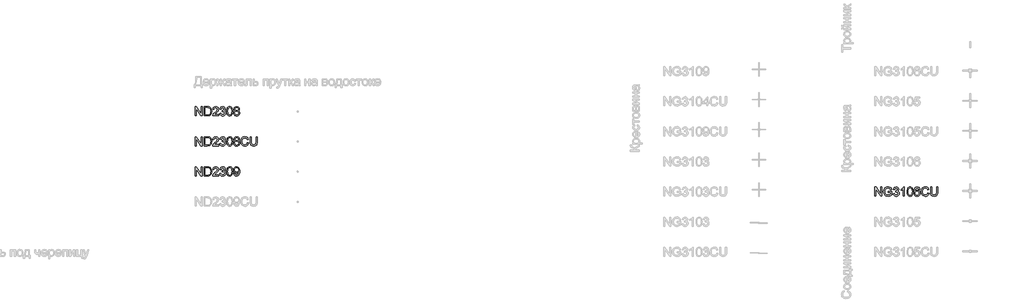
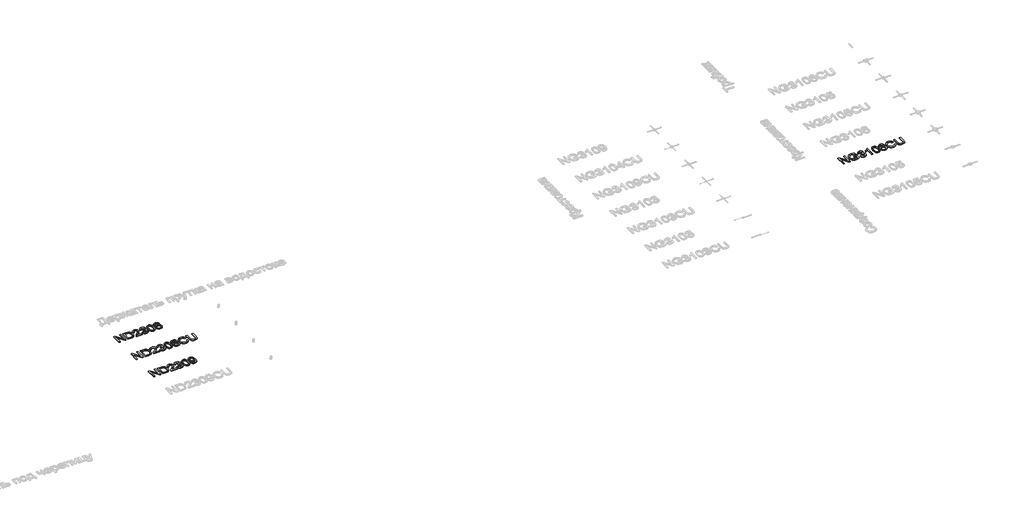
# One storey, part 114 of 124: 4 proxies.
"""IFC4 building model written with IfcOpenShell, lengths in millimetres."""

from ifc_helpers import new_model, si_unit, origin, origin_with_axes, place, context, project, spatial, polyline, outline, extrude, element, save

model = new_model("IFC4")

# Units and contexts
model_context = context("Model", 3, world=origin())
ifc_project = project(units=[si_unit("LENGTHUNIT", "METRE", prefix="MILLI")], contexts=[model_context])

# Site, building, storey
site = spatial("IfcSite", under=ifc_project)
building = spatial("IfcBuilding", under=site)
storey = spatial("IfcBuildingStorey", under=building, Name="Этаж 01", Elevation=0.0)

# Proxies
placement = place(None, origin())
element("IfcBuildingElementProxy", 1, Name="300", ObjectType="300", at=placement, inside=storey, context=model_context, shape_type="SweptSolid", body=[
    extrude(outline(polyline([(56699.8220677, -16519.5141033), (56699.8220677, -16218.1451728), (56740.1419344, -16218.1451728), (56897.5954283, -16456.9005877), (56897.5954283, -16218.1451728), (56935.2665446, -16218.1451728), (56935.2665446, -16519.5141033), (56894.9466779, -16519.5141033), (56737.493184, -16280.685112), (56737.493184, -16519.5141033), (56699.8220677, -16519.5141033)])), origin_with_axes(), (0.0, 0.0, 1.0), 20.0),
    extrude(outline(polyline([(57142.4576843, -16401.7918648), (57142.4576843, -16364.1207485), (57264.8888123, -16364.1207485), (57264.8888123, -16476.7662154), (57235.1363559, -16497.4595776), (57204.4458005, -16512.3036162), (57172.8907223, -16521.2431486), (57140.5446979, -16524.2229928), (57098.2842537, -16519.4865121), (57060.0889056, -16505.27707), (57028.3590835, -16482.0913073), (57005.4952175, -16450.4258646), (56991.6720515, -16412.4420486), (56987.0643295, -16370.301166), (56991.6536574, -16327.8567808), (57005.4216411, -16288.3738457), (57027.7980634, -16255.2552691), (57058.2127074, -16231.9039594), (57095.2584243, -16218.0532023), (57137.5280656, -16213.4362833), (57168.5589118, -16216.1126248), (57196.4627612, -16224.1416493), (57219.9612236, -16236.9439428), (57237.7759092, -16253.9400909), (57250.9552817, -16275.9486313), (57260.5478047, -16303.7881013), (57225.8197444, -16313.5737624), (57218.0666313, -16293.7173317), (57208.6396552, -16278.7353374), (57196.1684556, -16267.4413602), (57179.282672, -16258.6489805), (57159.1503298, -16252.9927948), (57136.9394544, -16251.1073996), (57110.9393944, -16253.1399476), (57088.7101248, -16259.2375917), (57070.3344191, -16268.6369766), (57055.8950508, -16280.5747474), (57036.5076697, -16309.6006368), (57027.6785018, -16338.037915), (57024.7354458, -16368.7560616), (57028.27631, -16404.780906), (57038.8989026, -16434.4229978), (57056.2813269, -16457.4708048), (57080.1016861, -16473.7127949), (57107.9779443, -16483.3421061), (57137.5280656, -16486.5518765), (57163.6200961, -16484.1330524), (57189.0683331, -16476.87658), (57211.1688439, -16466.8793868), (57227.217696, -16456.2384001), (57227.217696, -16401.7918648), (57142.4576843, -16401.7918648)])), origin_with_axes(), (0.0, 0.0, 1.0), 20.0),
    extrude(outline(polyline([(57311.9777077, -16439.4629811), (57349.648824, -16434.7540916), (57358.0825187, -16458.427298), (57370.4341567, -16474.4117707), (57387.3107432, -16483.51685), (57409.3192836, -16486.5518765), (57435.1445997, -16482.3764158), (57455.0838038, -16469.8500339), (57467.8309149, -16451.1616286), (57472.079952, -16428.5000977), (57467.8677031, -16406.988198), (57455.2309566, -16389.5413944), (57436.1010928, -16377.9807027), (57412.4094924, -16374.1271388), (57385.9955651, -16378.2474171), (57390.1894198, -16340.5763008), (57396.2226846, -16341.0177592), (57418.792245, -16338.3138265), (57438.9705724, -16330.2020285), (57453.2076056, -16316.4800301), (57457.9532834, -16296.9454962), (57454.5135867, -16280.6759149), (57444.1944967, -16267.4781484), (57428.4491473, -16258.7317539), (57408.7306724, -16255.8162891), (57388.9754093, -16258.7593451), (57372.8253897, -16267.588513), (57361.0347717, -16282.3037928), (57354.3577135, -16302.9051845), (57316.6865972, -16298.196295), (57327.7782394, -16264.3695455), (57347.5151084, -16239.1144465), (57374.5176468, -16223.3874912), (57407.4062972, -16218.1451728), (57431.0887007, -16220.7295438), (57452.8397236, -16228.4826569), (57471.1786411, -16240.7147332), (57484.624728, -16256.7359941), (57492.8744817, -16275.1944732), (57495.6243997, -16294.7382042), (57493.0124375, -16312.948363), (57485.176551, -16329.4662646), (57472.2271048, -16343.5377509), (57454.2744634, -16354.4086638), (57477.8556993, -16363.9368075), (57495.3300941, -16380.1604035), (57506.1458247, -16402.196535), (57509.7510683, -16429.1622852), (57507.9484465, -16448.2737549), (57502.5405812, -16465.8769084), (57493.5274723, -16481.9717457), (57480.9091199, -16496.5582668), (57465.536251, -16508.6615844), (57448.2595928, -16517.3068113), (57429.0791453, -16522.4939474), (57407.9949084, -16524.2229928), (57388.9386211, -16522.7468663), (57371.5745909, -16518.3184868), (57355.9028179, -16510.9378542), (57341.9233021, -16500.6049687), (57330.201662, -16487.9268354), (57321.3035162, -16473.5104598), (57315.2288648, -16457.3558417), (57311.9777077, -16439.4629811)])), origin_with_axes(), (0.0, 0.0, 1.0), 20.0),
    extrude(outline(polyline([(57683.9799812, -16519.5141033), (57646.3088649, -16519.5141033), (57646.3088649, -16284.6582375), (57610.6243114, -16310.0788834), (57570.9666323, -16329.0983826), (57570.9666323, -16293.4874054), (57600.5535417, -16277.3925681), (57626.1857197, -16258.2443103), (57646.3916383, -16237.8820419), (57659.6997695, -16218.1451728), (57683.9799812, -16218.1451728), (57683.9799812, -16519.5141033)])), origin_with_axes(), (0.0, 0.0, 1.0), 20.0),
    extrude(outline(polyline([(57773.4488824, -16371.2576592), (57776.2171944, -16323.0191326), (57784.5221305, -16284.5478729), (57798.2809171, -16255.2552691), (57817.4107808, -16234.5527098), (57842.0496775, -16222.2470571), (57872.3355627, -16218.1451728), (57895.5489166, -16220.573194), (57916.3342493, -16227.8572575), (57933.7166736, -16239.7122548), (57946.7213021, -16255.8530773), (57956.5437514, -16276.1417694), (57964.3796379, -16300.4403751), (57969.5115917, -16331.2964775), (57971.222243, -16371.2576592), (57968.4815222, -16419.2202743), (57960.2593596, -16457.5995635), (57946.5833464, -16486.9197585), (57927.4810738, -16507.7050912), (57902.7869949, -16520.0935174), (57872.3355627, -16524.2229928), (57851.5870182, -16522.4295681), (57833.1929184, -16517.0492939), (57817.1532634, -16508.0821703), (57803.4680532, -16495.5281972), (57790.334666, -16472.8344766), (57780.9536751, -16444.5581467), (57775.3250806, -16410.6992076), (57773.4488824, -16371.2576592)]), holes=[polyline([(57811.1199987, -16371.1840828), (57815.5345827, -16430.4406752), (57821.0528126, -16450.7086739), (57828.7783345, -16464.7364742), (57848.4968094, -16481.0980259), (57872.3355627, -16486.5518765), (57896.174316, -16481.0796318), (57915.892791, -16464.6628978), (57923.6183128, -16450.6121048), (57929.1365428, -16430.3487047), (57933.5511267, -16371.1840828), (57929.2836956, -16313.2610627), (57923.9494066, -16293.0597426), (57916.4814021, -16278.6985492), (57896.7997154, -16261.5368541), (57871.8941043, -16255.8162891), (57848.3128684, -16260.8562725), (57829.3669457, -16275.9762225), (57821.3839064, -16291.6112072), (57815.6817355, -16312.6908456), (57811.1199987, -16371.1840828)])]), origin_with_axes(), (0.0, 0.0, 1.0), 20.0),
    extrude(outline(polyline([(58197.2489409, -16298.196295), (58159.5778246, -16302.9051845), (58153.5077716, -16284.2351732), (58145.3040031, -16271.4880621), (58128.2158845, -16259.7342324), (58107.5593104, -16255.8162891), (58090.0481275, -16258.0971575), (58073.5670141, -16264.9397626), (58059.4127543, -16279.3515398), (58047.8520626, -16299.1895763), (58040.0437673, -16327.2497755), (58037.1466966, -16366.3280405), (58052.2574495, -16348.6972959), (58070.3664407, -16336.2720815), (58090.4619947, -16328.9052445), (58111.532436, -16326.4496322), (58129.6322301, -16328.1280938), (58146.3340727, -16333.1634786), (58161.6379637, -16341.5557866), (58175.5439031, -16353.3050178), (58187.0999963, -16367.7121965), (58195.3543486, -16384.0783467), (58200.3069599, -16402.4034686), (58201.9578304, -16422.6875621), (58198.8492275, -16449.6625094), (58189.523419, -16474.669288), (58174.7529569, -16495.8776851), (58155.3103934, -16511.4574876), (58132.0786454, -16521.0316165), (58105.9406297, -16524.2229928), (58083.4837331, -16522.1076713), (58063.2019389, -16515.7617069), (58045.0952469, -16505.1850995), (58029.1636573, -16490.3778492), (58016.1751236, -16470.7145566), (58006.8975995, -16445.5698222), (58001.3310851, -16414.9436461), (57999.4755803, -16378.8360283), (58001.5357194, -16338.3552133), (58007.7161369, -16303.8064954), (58018.0168328, -16275.1898747), (58032.437807, -16252.5053512), (58048.0681933, -16237.4727731), (58066.1909801, -16226.7352174), (58086.8061674, -16220.292684), (58109.9137552, -16218.1451728), (58142.9679525, -16223.4610676), (58169.437062, -16239.4087521), (58187.9783146, -16264.7374275), (58197.2489409, -16298.196295)]), holes=[polyline([(58037.1466966, -16422.0989509), (58039.3263974, -16438.7915965), (58045.8654998, -16454.7300839), (58056.0190429, -16468.4336882), (58069.0420655, -16478.4216844), (58084.7598238, -16484.5193285), (58102.9975737, -16486.5518765), (58127.8571995, -16482.3396276), (58147.4009305, -16469.7028811), (58160.0652682, -16449.8372534), (58164.2867141, -16423.9383609), (58160.1204505, -16399.0787351), (58147.6216597, -16380.1236153), (58127.7468349, -16368.1214652), (58101.4524693, -16364.1207485), (58076.6296317, -16368.1214652), (58055.8718901, -16380.1236153), (58041.8279949, -16398.6188826), (58037.1466966, -16422.0989509)])]), origin_with_axes(), (0.0, 0.0, 1.0), 20.0),
    extrude(outline(polyline([(58460.946755, -16412.3868663), (58498.6178713, -16422.0989509), (58491.1636624, -16445.5261362), (58481.235447, -16465.99647), (58468.8332253, -16483.5099522), (58453.9569971, -16498.0665829), (58436.9424548, -16509.5100123), (58418.1252908, -16517.6838903), (58397.5055049, -16522.5882172), (58375.0830973, -16524.2229928), (58331.3879134, -16519.27498), (58296.6874442, -16504.4309415), (58270.0895759, -16480.2059121), (58250.7021948, -16447.1149266), (58238.8655916, -16408.2114056), (58234.9200572, -16366.5487697), (58239.3806264, -16322.6052653), (58252.7623339, -16284.6582375), (58274.3662041, -16253.9124998), (58303.4932611, -16231.5728656), (58338.0373804, -16217.9704289), (58375.8924377, -16213.4362833), (58417.1963887, -16219.3040011), (58435.1651249, -16226.6386484), (58451.3450349, -16236.9071546), (58465.4694043, -16249.8382067), (58477.2715185, -16265.1604918), (58493.9089818, -16302.9787609), (58456.2378655, -16311.9550816), (58443.1780546, -16284.4834936), (58425.3357779, -16265.6387384), (58402.490306, -16254.7402343), (58374.4209097, -16251.1073996), (58342.0656883, -16255.1357074), (58315.4862141, -16267.220631), (58295.3170837, -16286.0929773), (58282.1928935, -16310.4835536), (58274.9916035, -16338.0563091), (58272.5911735, -16366.4751933), (58275.4330619, -16401.27683), (58283.9587271, -16431.3695772), (58298.4900659, -16455.6038036), (58319.3489751, -16472.8298781), (58344.3557537, -16483.1213769), (58371.330701, -16486.5518765), (58402.7754145, -16481.8797752), (58428.9778096, -16467.8634711), (58448.7606639, -16444.6501172), (58460.946755, -16412.3868663)])), origin_with_axes(), (0.0, 0.0, 1.0), 20.0),
    extrude(outline(polyline([(58748.1890168, -16218.1451728), (58785.8601331, -16218.1451728), (58785.8601331, -16392.0062037), (58783.3033533, -16432.7215435), (58775.6330137, -16464.0742866), (58761.30401, -16488.2625278), (58738.7712378, -16507.484362), (58707.9795148, -16520.0383351), (58668.8736587, -16524.2229928), (58630.6231282, -16520.580961), (58600.0429374, -16509.6548658), (58577.1238891, -16491.8217861), (58561.8567863, -16467.4588009), (58553.2759387, -16434.7816827), (58550.4156562, -16392.0062037), (58550.4156562, -16218.1451728), (58588.0867725, -16218.1451728), (58588.0867725, -16390.6818285), (58589.9445766, -16424.5361692), (58595.5179888, -16448.108208), (58605.6163496, -16464.4329715), (58621.0489993, -16476.5454862), (58641.1721444, -16484.0502789), (58665.3419915, -16486.5518765), (58703.6569013, -16481.6038637), (58717.9997006, -16475.4188476), (58729.1327295, -16466.7598252), (58737.4698552, -16454.5829311), (58743.424945, -16437.8443003), (58748.1890168, -16390.6818285), (58748.1890168, -16218.1451728)])), origin_with_axes(), (0.0, 0.0, 1.0), 20.0),
])
element("IfcBuildingElementProxy", 2, Name="300", ObjectType="300", at=placement, inside=storey, context=model_context, shape_type="SweptSolid", body=[
    extrude(outline(polyline([(34161.4897718, -13850.5404686), (34161.4897718, -13549.1715382), (34201.8096385, -13549.1715382), (34359.2631324, -13787.9269531), (34359.2631324, -13549.1715382), (34396.9342487, -13549.1715382), (34396.9342487, -13850.5404686), (34356.6143821, -13850.5404686), (34199.1608881, -13611.7114774), (34199.1608881, -13850.5404686), (34161.4897718, -13850.5404686)])), origin_with_axes(), (0.0, 0.0, 1.0), 20.0),
    extrude(outline(polyline([(34462.8587023, -13850.5404686), (34462.8587023, -13549.1715382), (34566.8221541, -13549.1715382), (34620.6065018, -13553.5125457), (34644.6291961, -13561.8818611), (34664.899494, -13575.0704306), (34685.7400091, -13598.0262671), (34700.5840476, -13626.57391), (34709.4683977, -13660.1615361), (34712.4298478, -13698.2373226), (34710.4248909, -13730.5833471), (34704.4100203, -13759.0482164), (34695.2497586, -13783.2824429), (34683.8086286, -13802.9365385), (34670.6384532, -13818.4519616), (34656.2910553, -13830.2701707), (34639.819139, -13839.0349592), (34620.275408, -13845.3901207), (34571.8253492, -13850.5404686), (34462.8587023, -13850.5404686)]), holes=[polyline([(34500.5298186, -13812.8693523), (34567.1900361, -13812.8693523), (34594.7627916, -13811.508189), (34615.6768831, -13807.4246988), (34631.4590207, -13800.8580052), (34643.6359147, -13792.0472314), (34656.7233167, -13775.740862), (34666.554963, -13754.6336325), (34672.7077894, -13728.6335725), (34674.7587315, -13697.6487114), (34670.7396207, -13656.5930808), (34658.6822883, -13626.2796044), (34640.8676027, -13605.4574835), (34619.5764322, -13592.8759192), (34597.9081827, -13588.3509707), (34566.1599665, -13586.8426545), (34500.5298186, -13586.8426545), (34500.5298186, -13812.8693523)])]), origin_with_axes(), (0.0, 0.0, 1.0), 20.0),
    extrude(outline(polyline([(34943.1654352, -13812.8693523), (34943.1654352, -13850.5404686), (34745.3920746, -13850.5404686), (34749.4387765, -13824.5679998), (34758.7277969, -13804.2701107), (34772.3210366, -13784.5792269), (34791.9843293, -13763.9686381), (34819.4835084, -13740.9116341), (34860.1344689, -13704.8040162), (34884.5250452, -13678.1509657), (34896.7203333, -13656.5195044), (34900.7854293, -13635.4766543), (34896.9502595, -13616.613505), (34885.4447501, -13600.9325349), (34867.7588232, -13590.3651246), (34845.3824009, -13586.8426545), (34821.8839384, -13590.2823512), (34803.6277944, -13600.6014411), (34791.8463735, -13616.990584), (34787.7720804, -13638.6404394), (34750.1009641, -13633.9315499), (34759.2336346, -13597.4928383), (34767.7799932, -13582.9569009), (34778.9797007, -13570.8765759), (34792.5752397, -13561.3806219), (34808.3090928, -13554.5977976), (34846.1917413, -13549.1715382), (34866.381565, -13550.6798544), (34884.3503012, -13555.2048029), (34900.0979499, -13562.7463838), (34913.624511, -13573.3045971), (34924.4885261, -13586.0976935), (34932.248537, -13600.3439237), (34936.9045435, -13616.0432879), (34938.4565456, -13633.1957859), (34936.7826826, -13651.2128066), (34931.7610933, -13668.9171276), (34922.849152, -13686.9249513), (34909.5042326, -13705.8524799), (34888.2314563, -13728.4496315), (34855.5359439, -13757.4663239), (34812.1994449, -13793.7027004), (34795.2032967, -13812.8693523), (34943.1654352, -13812.8693523)])), origin_with_axes(), (0.0, 0.0, 1.0), 20.0),
    extrude(outline(polyline([(34980.8365515, -13770.4893465), (35018.5076678, -13765.7804569), (35026.9413625, -13789.4536633), (35039.2930005, -13805.438136), (35056.169587, -13814.5432154), (35078.1781274, -13817.5782419), (35104.0034435, -13813.4027812), (35123.9426476, -13800.8763993), (35136.6897587, -13782.1879939), (35140.9387958, -13759.526463), (35136.7265469, -13738.0145634), (35124.0898004, -13720.5677597), (35104.9599367, -13709.007068), (35081.2683362, -13705.1535041), (35054.8544089, -13709.2737825), (35059.0482637, -13671.6026662), (35065.0815284, -13672.0441246), (35087.6510888, -13669.3401919), (35107.8294162, -13661.2283939), (35122.0664494, -13647.5063955), (35126.8121272, -13627.9718616), (35123.3724305, -13611.7022803), (35113.0533406, -13598.5045137), (35097.3079912, -13589.7581193), (35077.5895162, -13586.8426545), (35057.8342531, -13589.7857105), (35041.6842335, -13598.6148783), (35029.8936155, -13613.3301581), (35023.2165573, -13633.9315499), (34985.545441, -13629.2226603), (34996.6370832, -13595.3959109), (35016.3739522, -13570.1408119), (35043.3764907, -13554.4138566), (35076.265141, -13549.1715382), (35099.9475445, -13551.7559092), (35121.6985674, -13559.5090223), (35140.0374849, -13571.7410986), (35153.4835718, -13587.7623595), (35161.7333256, -13606.2208386), (35164.4832435, -13625.7645696), (35161.8712813, -13643.9747283), (35154.0353948, -13660.4926299), (35141.0859486, -13674.5641162), (35123.1333072, -13685.4350292), (35146.7145431, -13694.9631729), (35164.1889379, -13711.1867689), (35175.0046685, -13733.2229004), (35178.6099121, -13760.1886506), (35176.8072903, -13779.3001203), (35171.399425, -13796.9032737), (35162.3863161, -13812.998111), (35149.7679637, -13827.5846321), (35134.3950948, -13839.6879498), (35117.1184366, -13848.3331767), (35097.9379891, -13853.5203128), (35076.8537522, -13855.2493582), (35057.7974649, -13853.7732317), (35040.4334347, -13849.3448522), (35024.7616617, -13841.9642196), (35010.7821459, -13831.6313341), (34999.0605058, -13818.9532008), (34990.1623601, -13804.5368251), (34984.0877086, -13788.382207), (34980.8365515, -13770.4893465)])), origin_with_axes(), (0.0, 0.0, 1.0), 20.0),
    extrude(outline(polyline([(35211.5721389, -13702.2840246), (35214.3404509, -13654.045498), (35222.6453869, -13615.5742383), (35236.4041735, -13586.2816345), (35255.5340373, -13565.5790752), (35280.1729339, -13553.2734224), (35310.4588192, -13549.1715382), (35333.6721731, -13551.5995594), (35354.4575058, -13558.8836229), (35371.8399301, -13570.7386202), (35384.8445586, -13586.8794427), (35394.6670079, -13607.1681347), (35402.5028944, -13631.4667405), (35407.6348482, -13662.3228429), (35409.3454995, -13702.2840246), (35406.6047786, -13750.2466397), (35398.382616, -13788.6259289), (35384.7066028, -13817.9461239), (35365.6043302, -13838.7314566), (35340.9102513, -13851.1198828), (35310.4588192, -13855.2493582), (35289.7102746, -13853.4559335), (35271.3161749, -13848.0756593), (35255.2765199, -13839.1085356), (35241.5913097, -13826.5545626), (35228.4579224, -13803.860842), (35219.0769316, -13775.5845121), (35213.448337, -13741.725573), (35211.5721389, -13702.2840246)]), holes=[polyline([(35249.2432552, -13702.2104482), (35253.6578391, -13761.4670406), (35259.176069, -13781.7350392), (35266.9015909, -13795.7628396), (35286.6200659, -13812.1243913), (35310.4588192, -13817.5782419), (35334.2975725, -13812.1059972), (35354.0160474, -13795.6892632), (35361.7415693, -13781.6384702), (35367.2597992, -13761.3750701), (35371.6743832, -13702.2104482), (35367.406952, -13644.287428), (35362.0726631, -13624.086108), (35354.6046586, -13609.7249146), (35334.9229718, -13592.5632195), (35310.0173608, -13586.8426545), (35286.4361249, -13591.8826378), (35267.4902021, -13607.0025878), (35259.5071628, -13622.6375726), (35253.8049919, -13643.7172109), (35249.2432552, -13702.2104482)])]), origin_with_axes(), (0.0, 0.0, 1.0), 20.0),
    extrude(outline(polyline([(35497.1957199, -13684.5521124), (35477.0265895, -13674.6192985), (35462.8723298, -13661.1548175), (35454.5122114, -13644.4345808), (35451.7255053, -13624.7345), (35453.2430185, -13609.3708282), (35457.7955582, -13595.2855463), (35465.3831244, -13582.4786543), (35476.005717, -13570.9501523), (35489.1528998, -13561.4220086), (35504.3142365, -13554.6161917), (35540.6793717, -13549.1715382), (35577.2652362, -13554.7449504), (35592.5921198, -13561.7117157), (35605.9416377, -13571.4651871), (35616.7573684, -13583.2190168), (35624.4828902, -13596.1868572), (35629.1182034, -13610.3687081), (35630.6633078, -13625.7645696), (35627.9133899, -13644.830054), (35619.6636361, -13661.2651821), (35605.822076, -13674.6468897), (35586.2967391, -13684.5521124), (35609.4825019, -13696.4990802), (35626.3590884, -13714.0930366), (35636.6505872, -13736.4878531), (35640.0810868, -13762.837401), (35638.3796326, -13781.6269739), (35633.2752699, -13798.8530483), (35624.7679988, -13814.5156243), (35612.8578192, -13828.6147017), (35598.1701305, -13840.2673639), (35581.3303322, -13848.5906941), (35562.3384242, -13853.5846921), (35541.1944065, -13855.2493582), (35520.0503889, -13853.5777944), (35501.0584809, -13848.5631029), (35484.2186825, -13840.2052838), (35469.5309939, -13828.5043371), (35457.6208143, -13814.3063914), (35449.1135431, -13798.4575752), (35444.0091805, -13780.9578885), (35442.3077262, -13761.8073314), (35445.8761816, -13734.436911), (35456.5815477, -13711.9225329), (35473.8720014, -13695.0367493), (35497.1957199, -13684.5521124)]), holes=[polyline([(35479.9788425, -13760.4829562), (35486.2696247, -13788.846658), (35494.9792309, -13801.014355), (35508.5264854, -13810.0734492), (35524.7500814, -13815.7020437), (35541.4887121, -13817.5782419), (35567.1300872, -13813.6327075), (35586.3703155, -13801.7961043), (35598.4000568, -13783.8710541), (35602.4099705, -13761.6601786), (35598.2712981, -13739.0722241), (35585.8552808, -13720.7517007), (35566.173594, -13708.6115949), (35540.2379134, -13704.564893), (35514.9552232, -13708.5564126), (35495.9081329, -13720.5309715), (35483.9611651, -13738.502007), (35479.9788425, -13760.4829562)]), polyline([(35489.3966216, -13625.838146), (35492.7351507, -13642.2824712), (35502.750738, -13655.4158584), (35519.149078, -13664.0242971), (35541.6358649, -13666.8937766), (35563.59842, -13664.0426912), (35579.7484396, -13655.4894348), (35589.6812535, -13642.797506), (35592.9921915, -13627.5304032), (35589.5708889, -13611.6838862), (35579.3069812, -13598.5780901), (35562.9362325, -13589.7765134), (35541.1944065, -13586.8426545), (35519.3146249, -13589.7121341), (35502.9714672, -13598.3205727), (35492.790333, -13610.9389252), (35489.3966216, -13625.838146)])]), origin_with_axes(), (0.0, 0.0, 1.0), 20.0),
])
element("IfcBuildingElementProxy", 3, Name="300", ObjectType="300", at=placement, inside=storey, context=model_context, shape_type="SweptSolid", body=[
    extrude(outline(polyline([(34161.4897718, -14850.5404686), (34161.4897718, -14549.1715382), (34201.8096385, -14549.1715382), (34359.2631324, -14787.9269531), (34359.2631324, -14549.1715382), (34396.9342487, -14549.1715382), (34396.9342487, -14850.5404686), (34356.6143821, -14850.5404686), (34199.1608881, -14611.7114774), (34199.1608881, -14850.5404686), (34161.4897718, -14850.5404686)])), origin_with_axes(), (0.0, 0.0, 1.0), 20.0),
    extrude(outline(polyline([(34462.8587023, -14850.5404686), (34462.8587023, -14549.1715382), (34566.8221541, -14549.1715382), (34620.6065018, -14553.5125457), (34644.6291961, -14561.8818611), (34664.899494, -14575.0704306), (34685.7400091, -14598.0262671), (34700.5840476, -14626.57391), (34709.4683977, -14660.1615361), (34712.4298478, -14698.2373226), (34710.4248909, -14730.5833471), (34704.4100203, -14759.0482164), (34695.2497586, -14783.2824429), (34683.8086286, -14802.9365385), (34670.6384532, -14818.4519616), (34656.2910553, -14830.2701707), (34639.819139, -14839.0349592), (34620.275408, -14845.3901207), (34571.8253492, -14850.5404686), (34462.8587023, -14850.5404686)]), holes=[polyline([(34500.5298186, -14812.8693523), (34567.1900361, -14812.8693523), (34594.7627916, -14811.508189), (34615.6768831, -14807.4246988), (34631.4590207, -14800.8580052), (34643.6359147, -14792.0472314), (34656.7233167, -14775.740862), (34666.554963, -14754.6336325), (34672.7077894, -14728.6335725), (34674.7587315, -14697.6487114), (34670.7396207, -14656.5930808), (34658.6822883, -14626.2796044), (34640.8676027, -14605.4574835), (34619.5764322, -14592.8759192), (34597.9081827, -14588.3509707), (34566.1599665, -14586.8426545), (34500.5298186, -14586.8426545), (34500.5298186, -14812.8693523)])]), origin_with_axes(), (0.0, 0.0, 1.0), 20.0),
    extrude(outline(polyline([(34943.1654352, -14812.8693523), (34943.1654352, -14850.5404686), (34745.3920746, -14850.5404686), (34749.4387765, -14824.5679998), (34758.7277969, -14804.2701107), (34772.3210366, -14784.5792269), (34791.9843293, -14763.9686381), (34819.4835084, -14740.9116341), (34860.1344689, -14704.8040162), (34884.5250452, -14678.1509657), (34896.7203333, -14656.5195044), (34900.7854293, -14635.4766543), (34896.9502595, -14616.613505), (34885.4447501, -14600.9325349), (34867.7588232, -14590.3651246), (34845.3824009, -14586.8426545), (34821.8839384, -14590.2823512), (34803.6277944, -14600.6014411), (34791.8463735, -14616.990584), (34787.7720804, -14638.6404394), (34750.1009641, -14633.9315499), (34759.2336346, -14597.4928383), (34767.7799932, -14582.9569009), (34778.9797007, -14570.8765759), (34792.5752397, -14561.3806219), (34808.3090928, -14554.5977976), (34846.1917413, -14549.1715382), (34866.381565, -14550.6798544), (34884.3503012, -14555.2048029), (34900.0979499, -14562.7463838), (34913.624511, -14573.3045971), (34924.4885261, -14586.0976935), (34932.248537, -14600.3439237), (34936.9045435, -14616.0432879), (34938.4565456, -14633.1957859), (34936.7826826, -14651.2128066), (34931.7610933, -14668.9171276), (34922.849152, -14686.9249513), (34909.5042326, -14705.8524799), (34888.2314563, -14728.4496315), (34855.5359439, -14757.4663239), (34812.1994449, -14793.7027004), (34795.2032967, -14812.8693523), (34943.1654352, -14812.8693523)])), origin_with_axes(), (0.0, 0.0, 1.0), 20.0),
    extrude(outline(polyline([(34980.8365515, -14770.4893465), (35018.5076678, -14765.7804569), (35026.9413625, -14789.4536633), (35039.2930005, -14805.438136), (35056.169587, -14814.5432154), (35078.1781274, -14817.5782419), (35104.0034435, -14813.4027812), (35123.9426476, -14800.8763993), (35136.6897587, -14782.1879939), (35140.9387958, -14759.526463), (35136.7265469, -14738.0145634), (35124.0898004, -14720.5677597), (35104.9599367, -14709.007068), (35081.2683362, -14705.1535041), (35054.8544089, -14709.2737825), (35059.0482637, -14671.6026662), (35065.0815284, -14672.0441246), (35087.6510888, -14669.3401919), (35107.8294162, -14661.2283939), (35122.0664494, -14647.5063955), (35126.8121272, -14627.9718616), (35123.3724305, -14611.7022803), (35113.0533406, -14598.5045137), (35097.3079912, -14589.7581193), (35077.5895162, -14586.8426545), (35057.8342531, -14589.7857105), (35041.6842335, -14598.6148783), (35029.8936155, -14613.3301581), (35023.2165573, -14633.9315499), (34985.545441, -14629.2226603), (34996.6370832, -14595.3959109), (35016.3739522, -14570.1408119), (35043.3764907, -14554.4138566), (35076.265141, -14549.1715382), (35099.9475445, -14551.7559092), (35121.6985674, -14559.5090223), (35140.0374849, -14571.7410986), (35153.4835718, -14587.7623595), (35161.7333256, -14606.2208386), (35164.4832435, -14625.7645696), (35161.8712813, -14643.9747283), (35154.0353948, -14660.4926299), (35141.0859486, -14674.5641162), (35123.1333072, -14685.4350292), (35146.7145431, -14694.9631729), (35164.1889379, -14711.1867689), (35175.0046685, -14733.2229004), (35178.6099121, -14760.1886506), (35176.8072903, -14779.3001203), (35171.399425, -14796.9032737), (35162.3863161, -14812.998111), (35149.7679637, -14827.5846321), (35134.3950948, -14839.6879498), (35117.1184366, -14848.3331767), (35097.9379891, -14853.5203128), (35076.8537522, -14855.2493582), (35057.7974649, -14853.7732317), (35040.4334347, -14849.3448522), (35024.7616617, -14841.9642196), (35010.7821459, -14831.6313341), (34999.0605058, -14818.9532008), (34990.1623601, -14804.5368251), (34984.0877086, -14788.382207), (34980.8365515, -14770.4893465)])), origin_with_axes(), (0.0, 0.0, 1.0), 20.0),
    extrude(outline(polyline([(35211.5721389, -14702.2840246), (35214.3404509, -14654.045498), (35222.6453869, -14615.5742383), (35236.4041735, -14586.2816345), (35255.5340373, -14565.5790752), (35280.1729339, -14553.2734224), (35310.4588192, -14549.1715382), (35333.6721731, -14551.5995594), (35354.4575058, -14558.8836229), (35371.8399301, -14570.7386202), (35384.8445586, -14586.8794427), (35394.6670079, -14607.1681347), (35402.5028944, -14631.4667405), (35407.6348482, -14662.3228429), (35409.3454995, -14702.2840246), (35406.6047786, -14750.2466397), (35398.382616, -14788.6259289), (35384.7066028, -14817.9461239), (35365.6043302, -14838.7314566), (35340.9102513, -14851.1198828), (35310.4588192, -14855.2493582), (35289.7102746, -14853.4559335), (35271.3161749, -14848.0756593), (35255.2765199, -14839.1085356), (35241.5913097, -14826.5545626), (35228.4579224, -14803.860842), (35219.0769316, -14775.5845121), (35213.448337, -14741.725573), (35211.5721389, -14702.2840246)]), holes=[polyline([(35249.2432552, -14702.2104482), (35253.6578391, -14761.4670406), (35259.176069, -14781.7350392), (35266.9015909, -14795.7628396), (35286.6200659, -14812.1243913), (35310.4588192, -14817.5782419), (35334.2975725, -14812.1059972), (35354.0160474, -14795.6892632), (35361.7415693, -14781.6384702), (35367.2597992, -14761.3750701), (35371.6743832, -14702.2104482), (35367.406952, -14644.287428), (35362.0726631, -14624.086108), (35354.6046586, -14609.7249146), (35334.9229718, -14592.5632195), (35310.0173608, -14586.8426545), (35286.4361249, -14591.8826378), (35267.4902021, -14607.0025878), (35259.5071628, -14622.6375726), (35253.8049919, -14643.7172109), (35249.2432552, -14702.2104482)])]), origin_with_axes(), (0.0, 0.0, 1.0), 20.0),
    extrude(outline(polyline([(35497.1957199, -14684.5521124), (35477.0265895, -14674.6192985), (35462.8723298, -14661.1548175), (35454.5122114, -14644.4345808), (35451.7255053, -14624.7345), (35453.2430185, -14609.3708282), (35457.7955582, -14595.2855463), (35465.3831244, -14582.4786543), (35476.005717, -14570.9501523), (35489.1528998, -14561.4220086), (35504.3142365, -14554.6161917), (35540.6793717, -14549.1715382), (35577.2652362, -14554.7449504), (35592.5921198, -14561.7117157), (35605.9416377, -14571.4651871), (35616.7573684, -14583.2190168), (35624.4828902, -14596.1868572), (35629.1182034, -14610.3687081), (35630.6633078, -14625.7645696), (35627.9133899, -14644.830054), (35619.6636361, -14661.2651821), (35605.822076, -14674.6468897), (35586.2967391, -14684.5521124), (35609.4825019, -14696.4990802), (35626.3590884, -14714.0930366), (35636.6505872, -14736.4878531), (35640.0810868, -14762.837401), (35638.3796326, -14781.6269739), (35633.2752699, -14798.8530483), (35624.7679988, -14814.5156243), (35612.8578192, -14828.6147017), (35598.1701305, -14840.2673639), (35581.3303322, -14848.5906941), (35562.3384242, -14853.5846921), (35541.1944065, -14855.2493582), (35520.0503889, -14853.5777944), (35501.0584809, -14848.5631029), (35484.2186825, -14840.2052838), (35469.5309939, -14828.5043371), (35457.6208143, -14814.3063914), (35449.1135431, -14798.4575752), (35444.0091805, -14780.9578885), (35442.3077262, -14761.8073314), (35445.8761816, -14734.436911), (35456.5815477, -14711.9225329), (35473.8720014, -14695.0367493), (35497.1957199, -14684.5521124)]), holes=[polyline([(35479.9788425, -14760.4829562), (35486.2696247, -14788.846658), (35494.9792309, -14801.014355), (35508.5264854, -14810.0734492), (35524.7500814, -14815.7020437), (35541.4887121, -14817.5782419), (35567.1300872, -14813.6327075), (35586.3703155, -14801.7961043), (35598.4000568, -14783.8710541), (35602.4099705, -14761.6601786), (35598.2712981, -14739.0722241), (35585.8552808, -14720.7517007), (35566.173594, -14708.6115949), (35540.2379134, -14704.564893), (35514.9552232, -14708.5564126), (35495.9081329, -14720.5309715), (35483.9611651, -14738.502007), (35479.9788425, -14760.4829562)]), polyline([(35489.3966216, -14625.838146), (35492.7351507, -14642.2824712), (35502.750738, -14655.4158584), (35519.149078, -14664.0242971), (35541.6358649, -14666.8937766), (35563.59842, -14664.0426912), (35579.7484396, -14655.4894348), (35589.6812535, -14642.797506), (35592.9921915, -14627.5304032), (35589.5708889, -14611.6838862), (35579.3069812, -14598.5780901), (35562.9362325, -14589.7765134), (35541.1944065, -14586.8426545), (35519.3146249, -14589.7121341), (35502.9714672, -14598.3205727), (35492.790333, -14610.9389252), (35489.3966216, -14625.838146)])]), origin_with_axes(), (0.0, 0.0, 1.0), 20.0),
    extrude(outline(polyline([(35899.0700114, -14743.4132316), (35936.7411278, -14753.1253163), (35929.2869188, -14776.5525016), (35919.3587035, -14797.0228354), (35906.9564817, -14814.5363176), (35892.0802535, -14829.0929483), (35875.0657113, -14840.5363776), (35856.2485472, -14848.7102557), (35835.6287614, -14853.6145826), (35813.2063538, -14855.2493582), (35769.5111698, -14850.3013453), (35734.8107006, -14835.4573068), (35708.2128324, -14811.2322775), (35688.8254512, -14778.141292), (35676.988848, -14739.237771), (35673.0433136, -14697.575135), (35677.5038828, -14653.6316307), (35690.8855904, -14615.6846029), (35712.4894605, -14584.9388652), (35741.6165175, -14562.599231), (35776.1606369, -14548.9967942), (35814.0156942, -14544.4626487), (35855.3196452, -14550.3303665), (35873.2883814, -14557.6650138), (35889.4682914, -14567.9335199), (35903.5926607, -14580.8645721), (35915.394775, -14596.1868572), (35932.0322382, -14634.0051263), (35894.3611219, -14642.981447), (35881.3013111, -14615.509859), (35863.4590343, -14596.6651038), (35840.6135624, -14585.7665997), (35812.5441662, -14582.133765), (35780.1889447, -14586.1620728), (35753.6094706, -14598.2469963), (35733.4403402, -14617.1193427), (35720.31615, -14641.509919), (35713.1148599, -14669.0826745), (35710.7144299, -14697.5015586), (35713.5563183, -14732.3031954), (35722.0819836, -14762.3959426), (35736.6133224, -14786.630169), (35757.4722315, -14803.8562435), (35782.4790101, -14814.1477423), (35809.4539574, -14817.5782419), (35840.898671, -14812.9061405), (35867.1010661, -14798.8898365), (35886.8839204, -14775.6764826), (35899.0700114, -14743.4132316)])), origin_with_axes(), (0.0, 0.0, 1.0), 20.0),
    extrude(outline(polyline([(36186.3122733, -14549.1715382), (36223.9833896, -14549.1715382), (36223.9833896, -14723.0325691), (36221.4266097, -14763.7479089), (36213.7562701, -14795.100652), (36199.4272664, -14819.2888931), (36176.8944942, -14838.5107274), (36146.1027712, -14851.0647005), (36106.9969151, -14855.2493582), (36068.7463847, -14851.6073264), (36038.1661938, -14840.6812312), (36015.2471455, -14822.8481515), (35999.9800427, -14798.4851663), (35991.3991952, -14765.8080481), (35988.5389127, -14723.0325691), (35988.5389127, -14549.1715382), (36026.210029, -14549.1715382), (36026.210029, -14721.7081939), (36028.0678331, -14755.5625345), (36033.6412453, -14779.1345734), (36043.7396061, -14795.4593369), (36059.1722557, -14807.5718516), (36079.2954009, -14815.0766443), (36103.465248, -14817.5782419), (36141.7801578, -14812.630229), (36156.1229571, -14806.445213), (36167.2559859, -14797.7861905), (36175.5931116, -14785.6092965), (36181.5482014, -14768.8706657), (36186.3122733, -14721.7081939), (36186.3122733, -14549.1715382)])), origin_with_axes(), (0.0, 0.0, 1.0), 20.0),
])
element("IfcBuildingElementProxy", 4, Name="300", ObjectType="300", at=placement, inside=storey, context=model_context, shape_type="SweptSolid", body=[
    extrude(outline(polyline([(34161.4897718, -15850.5404686), (34161.4897718, -15549.1715382), (34201.8096385, -15549.1715382), (34359.2631324, -15787.9269531), (34359.2631324, -15549.1715382), (34396.9342487, -15549.1715382), (34396.9342487, -15850.5404686), (34356.6143821, -15850.5404686), (34199.1608881, -15611.7114774), (34199.1608881, -15850.5404686), (34161.4897718, -15850.5404686)])), origin_with_axes(), (0.0, 0.0, 1.0), 20.0),
    extrude(outline(polyline([(34462.8587023, -15850.5404686), (34462.8587023, -15549.1715382), (34566.8221541, -15549.1715382), (34620.6065018, -15553.5125457), (34644.6291961, -15561.8818611), (34664.899494, -15575.0704306), (34685.7400091, -15598.0262671), (34700.5840476, -15626.57391), (34709.4683977, -15660.1615361), (34712.4298478, -15698.2373226), (34710.4248909, -15730.5833471), (34704.4100203, -15759.0482164), (34695.2497586, -15783.2824429), (34683.8086286, -15802.9365385), (34670.6384532, -15818.4519616), (34656.2910553, -15830.2701707), (34639.819139, -15839.0349592), (34620.275408, -15845.3901207), (34571.8253492, -15850.5404686), (34462.8587023, -15850.5404686)]), holes=[polyline([(34500.5298186, -15812.8693523), (34567.1900361, -15812.8693523), (34594.7627916, -15811.508189), (34615.6768831, -15807.4246988), (34631.4590207, -15800.8580052), (34643.6359147, -15792.0472314), (34656.7233167, -15775.740862), (34666.554963, -15754.6336325), (34672.7077894, -15728.6335725), (34674.7587315, -15697.6487114), (34670.7396207, -15656.5930808), (34658.6822883, -15626.2796044), (34640.8676027, -15605.4574835), (34619.5764322, -15592.8759192), (34597.9081827, -15588.3509707), (34566.1599665, -15586.8426545), (34500.5298186, -15586.8426545), (34500.5298186, -15812.8693523)])]), origin_with_axes(), (0.0, 0.0, 1.0), 20.0),
    extrude(outline(polyline([(34943.1654352, -15812.8693523), (34943.1654352, -15850.5404686), (34745.3920746, -15850.5404686), (34749.4387765, -15824.5679998), (34758.7277969, -15804.2701107), (34772.3210366, -15784.5792269), (34791.9843293, -15763.9686381), (34819.4835084, -15740.9116341), (34860.1344689, -15704.8040162), (34884.5250452, -15678.1509657), (34896.7203333, -15656.5195044), (34900.7854293, -15635.4766543), (34896.9502595, -15616.613505), (34885.4447501, -15600.9325349), (34867.7588232, -15590.3651246), (34845.3824009, -15586.8426545), (34821.8839384, -15590.2823512), (34803.6277944, -15600.6014411), (34791.8463735, -15616.990584), (34787.7720804, -15638.6404394), (34750.1009641, -15633.9315499), (34759.2336346, -15597.4928383), (34767.7799932, -15582.9569009), (34778.9797007, -15570.8765759), (34792.5752397, -15561.3806219), (34808.3090928, -15554.5977976), (34846.1917413, -15549.1715382), (34866.381565, -15550.6798544), (34884.3503012, -15555.2048029), (34900.0979499, -15562.7463838), (34913.624511, -15573.3045971), (34924.4885261, -15586.0976935), (34932.248537, -15600.3439237), (34936.9045435, -15616.0432879), (34938.4565456, -15633.1957859), (34936.7826826, -15651.2128066), (34931.7610933, -15668.9171276), (34922.849152, -15686.9249513), (34909.5042326, -15705.8524799), (34888.2314563, -15728.4496315), (34855.5359439, -15757.4663239), (34812.1994449, -15793.7027004), (34795.2032967, -15812.8693523), (34943.1654352, -15812.8693523)])), origin_with_axes(), (0.0, 0.0, 1.0), 20.0),
    extrude(outline(polyline([(34980.8365515, -15770.4893465), (35018.5076678, -15765.7804569), (35026.9413625, -15789.4536633), (35039.2930005, -15805.438136), (35056.169587, -15814.5432154), (35078.1781274, -15817.5782419), (35104.0034435, -15813.4027812), (35123.9426476, -15800.8763993), (35136.6897587, -15782.1879939), (35140.9387958, -15759.526463), (35136.7265469, -15738.0145634), (35124.0898004, -15720.5677597), (35104.9599367, -15709.007068), (35081.2683362, -15705.1535041), (35054.8544089, -15709.2737825), (35059.0482637, -15671.6026662), (35065.0815284, -15672.0441246), (35087.6510888, -15669.3401919), (35107.8294162, -15661.2283939), (35122.0664494, -15647.5063955), (35126.8121272, -15627.9718616), (35123.3724305, -15611.7022803), (35113.0533406, -15598.5045137), (35097.3079912, -15589.7581193), (35077.5895162, -15586.8426545), (35057.8342531, -15589.7857105), (35041.6842335, -15598.6148783), (35029.8936155, -15613.3301581), (35023.2165573, -15633.9315499), (34985.545441, -15629.2226603), (34996.6370832, -15595.3959109), (35016.3739522, -15570.1408119), (35043.3764907, -15554.4138566), (35076.265141, -15549.1715382), (35099.9475445, -15551.7559092), (35121.6985674, -15559.5090223), (35140.0374849, -15571.7410986), (35153.4835718, -15587.7623595), (35161.7333256, -15606.2208386), (35164.4832435, -15625.7645696), (35161.8712813, -15643.9747283), (35154.0353948, -15660.4926299), (35141.0859486, -15674.5641162), (35123.1333072, -15685.4350292), (35146.7145431, -15694.9631729), (35164.1889379, -15711.1867689), (35175.0046685, -15733.2229004), (35178.6099121, -15760.1886506), (35176.8072903, -15779.3001203), (35171.399425, -15796.9032737), (35162.3863161, -15812.998111), (35149.7679637, -15827.5846321), (35134.3950948, -15839.6879498), (35117.1184366, -15848.3331767), (35097.9379891, -15853.5203128), (35076.8537522, -15855.2493582), (35057.7974649, -15853.7732317), (35040.4334347, -15849.3448522), (35024.7616617, -15841.9642196), (35010.7821459, -15831.6313341), (34999.0605058, -15818.9532008), (34990.1623601, -15804.5368251), (34984.0877086, -15788.382207), (34980.8365515, -15770.4893465)])), origin_with_axes(), (0.0, 0.0, 1.0), 20.0),
    extrude(outline(polyline([(35211.5721389, -15702.2840246), (35214.3404509, -15654.045498), (35222.6453869, -15615.5742383), (35236.4041735, -15586.2816345), (35255.5340373, -15565.5790752), (35280.1729339, -15553.2734224), (35310.4588192, -15549.1715382), (35333.6721731, -15551.5995594), (35354.4575058, -15558.8836229), (35371.8399301, -15570.7386202), (35384.8445586, -15586.8794427), (35394.6670079, -15607.1681347), (35402.5028944, -15631.4667405), (35407.6348482, -15662.3228429), (35409.3454995, -15702.2840246), (35406.6047786, -15750.2466397), (35398.382616, -15788.6259289), (35384.7066028, -15817.9461239), (35365.6043302, -15838.7314566), (35340.9102513, -15851.1198828), (35310.4588192, -15855.2493582), (35289.7102746, -15853.4559335), (35271.3161749, -15848.0756593), (35255.2765199, -15839.1085356), (35241.5913097, -15826.5545626), (35228.4579224, -15803.860842), (35219.0769316, -15775.5845121), (35213.448337, -15741.725573), (35211.5721389, -15702.2840246)]), holes=[polyline([(35249.2432552, -15702.2104482), (35253.6578391, -15761.4670406), (35259.176069, -15781.7350392), (35266.9015909, -15795.7628396), (35286.6200659, -15812.1243913), (35310.4588192, -15817.5782419), (35334.2975725, -15812.1059972), (35354.0160474, -15795.6892632), (35361.7415693, -15781.6384702), (35367.2597992, -15761.3750701), (35371.6743832, -15702.2104482), (35367.406952, -15644.287428), (35362.0726631, -15624.086108), (35354.6046586, -15609.7249146), (35334.9229718, -15592.5632195), (35310.0173608, -15586.8426545), (35286.4361249, -15591.8826378), (35267.4902021, -15607.0025878), (35259.5071628, -15622.6375726), (35253.8049919, -15643.7172109), (35249.2432552, -15702.2104482)])]), origin_with_axes(), (0.0, 0.0, 1.0), 20.0),
    extrude(outline(polyline([(35447.0166158, -15775.198236), (35484.6877321, -15770.4893465), (35491.125667, -15791.8724875), (35501.6103039, -15806.4314174), (35515.8841253, -15814.7915358), (35533.6896138, -15817.5782419), (35549.6648895, -15815.7848171), (35564.1870312, -15810.404543), (35576.2535607, -15802.0260305), (35584.8619994, -15791.237891), (35597.1860462, -15758.4963934), (35602.6306997, -15714.7920124), (35602.4099705, -15707.4343725), (35589.3593568, -15723.3636629), (35572.2804351, -15735.9820153), (35552.4056103, -15744.2041779), (35530.9672871, -15746.9448988), (35513.0721273, -15745.2710357), (35496.6163058, -15740.2494465), (35481.5998226, -15731.8801311), (35468.0226777, -15720.1630895), (35456.7723864, -15705.7099257), (35448.7364641, -15689.1322433), (35443.9149107, -15670.4300423), (35442.3077262, -15649.6033229), (35443.9930856, -15628.0822262), (35449.0491638, -15608.7684214), (35457.4759608, -15591.6619086), (35469.2734765, -15576.7626878), (35483.609378, -15564.6915599), (35499.6513322, -15556.0693256), (35517.3993392, -15550.895985), (35536.853399, -15549.1715382), (35564.9503864, -15553.1078755), (35590.5273821, -15564.9168876), (35611.9197201, -15584.0099631), (35627.4627344, -15609.798491), (35636.9264987, -15645.4462563), (35640.0810868, -15694.1170443), (35636.9356958, -15745.7216912), (35627.4995226, -15785.6092965), (35611.8553408, -15815.582482), (35590.0859237, -15837.4438696), (35563.1293705, -15850.797986), (35531.9237803, -15855.2493582), (35499.7157116, -15849.9978427), (35474.0191542, -15834.2432963), (35456.0481188, -15808.9790002), (35447.0166158, -15775.198236)]), holes=[polyline([(35602.4099705, -15648.7204061), (35598.3448745, -15623.1893956), (35586.1495864, -15603.5444971), (35567.2220577, -15591.0181151), (35542.9602401, -15586.8426545), (35517.7971116, -15591.3400119), (35497.6371783, -15604.8320841), (35484.3934265, -15625.479461), (35479.9788425, -15651.4427328), (35484.1543032, -15674.7204661), (35496.6806851, -15693.1973393), (35516.3439778, -15705.2546717), (35541.9301705, -15709.2737825), (35565.9988501, -15705.2546717), (35585.3770342, -15693.1973393), (35598.1517364, -15674.0398844), (35602.4099705, -15648.7204061)])]), origin_with_axes(), (0.0, 0.0, 1.0), 20.0),
])

save(model, "model.ifc")
